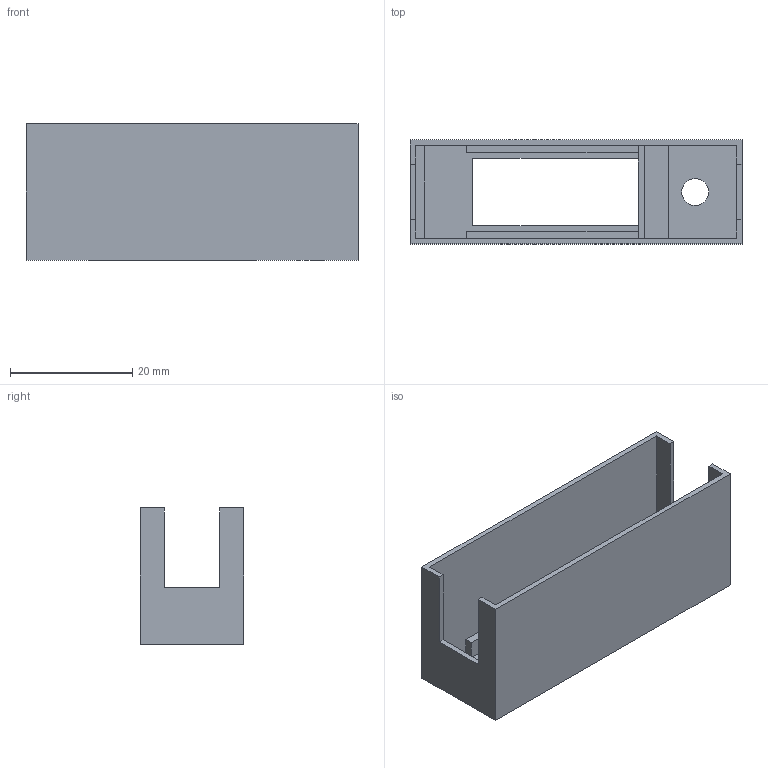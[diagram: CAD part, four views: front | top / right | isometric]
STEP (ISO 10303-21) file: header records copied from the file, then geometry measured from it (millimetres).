
FILE_DESCRIPTION(('FreeCAD Model'),'2;1');
FILE_NAME('Open CASCADE Shape Model','2025-03-10T19:21:59',(''),(''), 'Open CASCADE STEP processor 7.8','FreeCAD','Unknown');
FILE_SCHEMA(('AUTOMOTIVE_DESIGN { 1 0 10303 214 1 1 1 1 }'));
Length unit declared in the file: millimetre
Products named in the file (1): Body
Bounding box: 54.3 x 17 x 22.25 mm (x, y, z)
Volume: 3122.2 mm3; surface area: 6998 mm2
Topology: 1 solids, 1 shells, 39 faces, 110 edges, 72 vertices
Faces by surface type: plane 38, cylinder 1
Full cylindrical faces by diameter (mm): 4.4 x1
Entity records: 1264 total; most frequent: CARTESIAN_POINT 222, ORIENTED_EDGE 220, DIRECTION 192, EDGE_CURVE 110, LINE 108, VECTOR 108, VERTEX_POINT 72, AXIS2_PLACEMENT_3D 42
